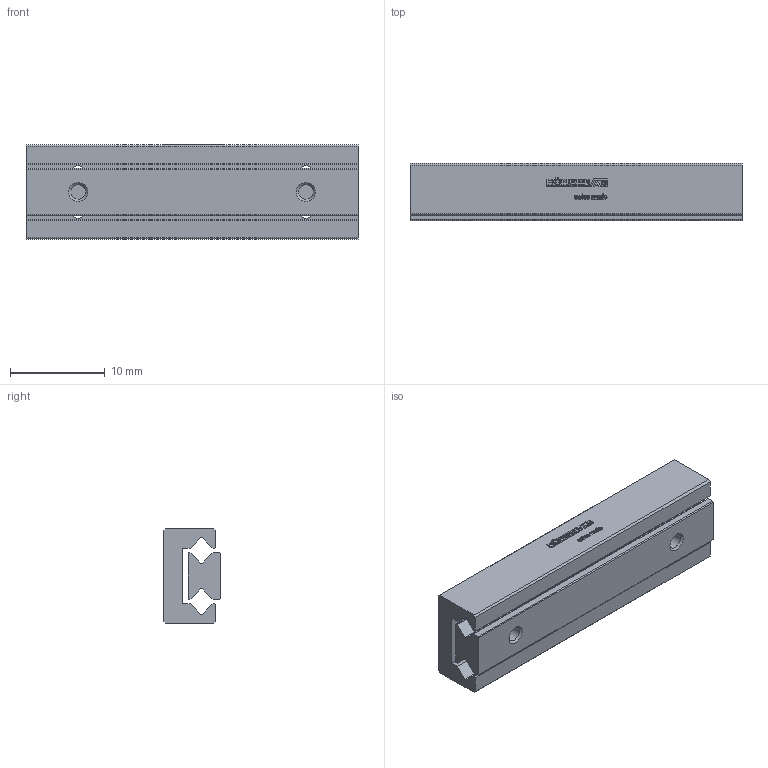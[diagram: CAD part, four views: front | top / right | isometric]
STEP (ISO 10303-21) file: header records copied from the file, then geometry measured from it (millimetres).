
FILE_DESCRIPTION(/* description */ ('STEP AP214'),/* implementation_level */ '2;1');
FILE_NAME(/* name */ 'MSR 5-35.25(0)',/* time_stamp */ '2025-04-16T17:18:19+02:00',/* author */ ('License CC BY-ND 4.0'),/* organization */ ('CADENAS'),/* preprocessor_version */ 'ST-DEVELOPER v19.3',/* originating_system */ 'PARTsolutions',/* authorisation */ ' ');
FILE_SCHEMA (('AUTOMOTIVE_DESIGN {1 0 10303 214 3 1 1}'));
Length unit declared in the file: millimetre
Products named in the file (3): MSR 5-35.25(0); MSR 5-35.25_1; MSR 5-35.25_2
Assembly tree (2 placements, depth 2):
  MSR 5-35.25(0)
    MSR 5-35.25_1
    MSR 5-35.25_2
Bounding box: 35 x 6 x 10 mm (x, y, z)
Volume: 1570.9 mm3; surface area: 2175.3 mm2
Topology: 2 solids, 2 shells, 521 faces, 1466 edges, 976 vertices
Faces by surface type: cylinder 302, plane 211, cone 8
Full cylindrical faces by diameter (mm): 1.567 x6
Entity records: 17053 total; most frequent: DIRECTION 3108, CARTESIAN_POINT 2944, ORIENTED_EDGE 2896, EDGE_CURVE 1448, AXIS2_PLACEMENT_3D 1136, VERTEX_POINT 972, LINE 836, VECTOR 836
